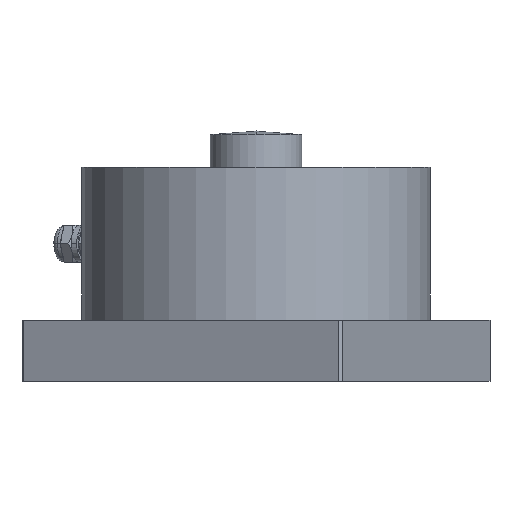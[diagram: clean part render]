
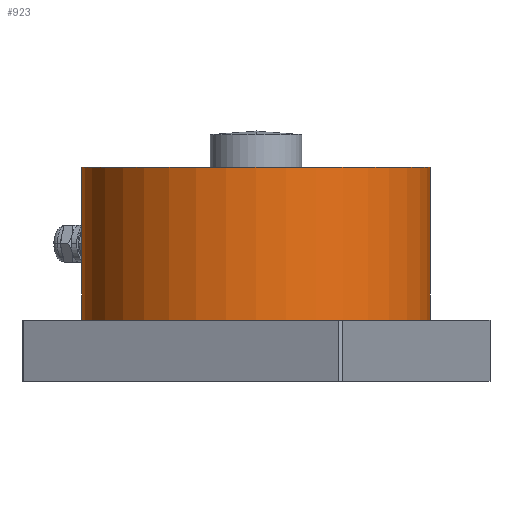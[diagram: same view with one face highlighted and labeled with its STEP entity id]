
A CAD part, left-side view. The second image highlights one B-rep face of the part: STEP entity #923.
In plain terms, the highlighted cylindrical face has radius 57 mm (diameter 114 mm), a partial arc.
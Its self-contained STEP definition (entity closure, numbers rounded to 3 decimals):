
#675 = VERTEX_POINT ( 'NONE', #4173 ) ;
#699 = AXIS2_PLACEMENT_3D ( 'NONE', #4086, #4588, #3622 ) ;
#923 = ADVANCED_FACE ( 'NONE', ( #2870 ), #4906, .T. ) ;
#943 = DIRECTION ( 'NONE',  ( 0., 0., -1. ) ) ;
#1007 = CARTESIAN_POINT ( 'NONE',  ( 0., 0., -50. ) ) ;
#1046 = LINE ( 'NONE', #4564, #5887 ) ;
#1529 = EDGE_CURVE ( 'NONE', #4118, #675, #3562, .T. ) ;
#1971 = DIRECTION ( 'NONE',  ( 0., 0., -1. ) ) ;
#1997 = DIRECTION ( 'NONE',  ( 0., 1., 0. ) ) ;
#2436 = DIRECTION ( 'NONE',  ( 0., 1., 0. ) ) ;
#2576 = CARTESIAN_POINT ( 'NONE',  ( 0., 57., -50. ) ) ;
#2622 = AXIS2_PLACEMENT_3D ( 'NONE', #6432, #1971, #2436 ) ;
#2832 = EDGE_CURVE ( 'NONE', #6266, #3266, #6170, .T. ) ;
#2870 = FACE_OUTER_BOUND ( 'NONE', #4090, .T. ) ;
#3037 = LINE ( 'NONE', #5107, #5772 ) ;
#3100 = DIRECTION ( 'NONE',  ( 0., 0., -1. ) ) ;
#3166 = AXIS2_PLACEMENT_3D ( 'NONE', #1007, #943, #1997 ) ;
#3266 = VERTEX_POINT ( 'NONE', #2576 ) ;
#3562 = CIRCLE ( 'NONE', #699, 57. ) ;
#3602 = DIRECTION ( 'NONE',  ( 0., 0., -1. ) ) ;
#3622 = DIRECTION ( 'NONE',  ( 0., 1., 0. ) ) ;
#3787 = ORIENTED_EDGE ( 'NONE', *, *, #5555, .T. ) ;
#4086 = CARTESIAN_POINT ( 'NONE',  ( 0., 0., 0. ) ) ;
#4090 = EDGE_LOOP ( 'NONE', ( #4297, #4562, #3787, #5006 ) ) ;
#4118 = VERTEX_POINT ( 'NONE', #5966 ) ;
#4173 = CARTESIAN_POINT ( 'NONE',  ( 0., 57., 0. ) ) ;
#4297 = ORIENTED_EDGE ( 'NONE', *, *, #6049, .F. ) ;
#4562 = ORIENTED_EDGE ( 'NONE', *, *, #1529, .T. ) ;
#4564 = CARTESIAN_POINT ( 'NONE',  ( 0., -57., -48.8 ) ) ;
#4588 = DIRECTION ( 'NONE',  ( 0., 0., -1. ) ) ;
#4906 = CYLINDRICAL_SURFACE ( 'NONE', #2622, 57. ) ;
#5006 = ORIENTED_EDGE ( 'NONE', *, *, #2832, .F. ) ;
#5107 = CARTESIAN_POINT ( 'NONE',  ( 0., 57., -48.8 ) ) ;
#5555 = EDGE_CURVE ( 'NONE', #675, #3266, #3037, .T. ) ;
#5772 = VECTOR ( 'NONE', #3100, 1000. ) ;
#5885 = CARTESIAN_POINT ( 'NONE',  ( 0., -57., -50. ) ) ;
#5887 = VECTOR ( 'NONE', #3602, 1000. ) ;
#5966 = CARTESIAN_POINT ( 'NONE',  ( 0., -57., 0. ) ) ;
#6049 = EDGE_CURVE ( 'NONE', #4118, #6266, #1046, .T. ) ;
#6170 = CIRCLE ( 'NONE', #3166, 57. ) ;
#6266 = VERTEX_POINT ( 'NONE', #5885 ) ;
#6432 = CARTESIAN_POINT ( 'NONE',  ( 0., 0., -48.8 ) ) ;
